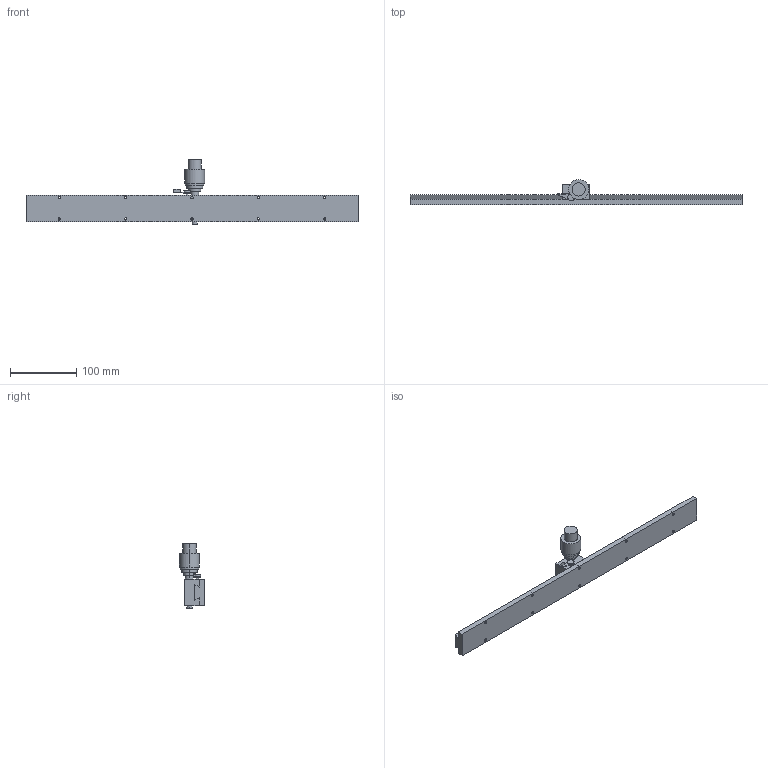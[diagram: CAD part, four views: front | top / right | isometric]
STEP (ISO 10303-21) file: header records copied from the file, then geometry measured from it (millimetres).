
FILE_DESCRIPTION (( 'STEP AP203' ), '1' );
FILE_NAME ('LS-414SL5 (2).STEP', '2016-04-11T01:31:22', ( '' ), ( '' ), 'SwSTEP 2.0', 'SolidWorks 2011', '' );
FILE_SCHEMA (( 'CONFIG_CONTROL_DESIGN' ));
Length unit declared in the file: millimetre
Products named in the file (3): LS-414SL5 (2); LS-414SL5-2; LS-414SL5-1
Assembly tree (2 placements, depth 2):
  LS-414SL5 (2)
    LS-414SL5-1
    LS-414SL5-2
Bounding box: 500 x 37.7 x 97.8 mm (x, y, z)
Volume: 277644.6 mm3; surface area: 74984.5 mm2
Topology: 2 solids, 2 shells, 177 faces, 410 edges, 259 vertices
Faces by surface type: cylinder 94, plane 67, cone 16
Entity records: 5316 total; most frequent: DIRECTION 949, CARTESIAN_POINT 835, ORIENTED_EDGE 788, EDGE_CURVE 394, AXIS2_PLACEMENT_3D 373, VERTEX_POINT 259, EDGE_LOOP 235, VECTOR 203
